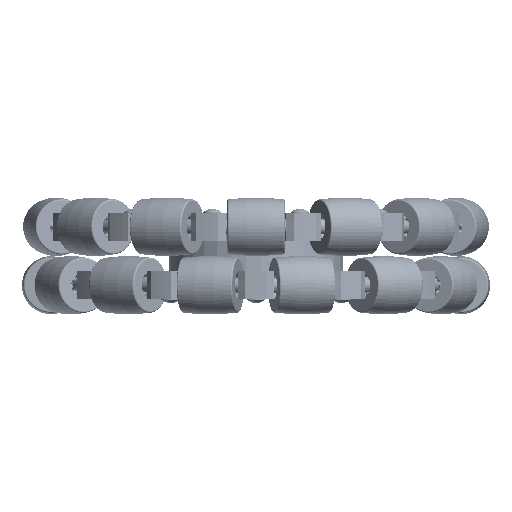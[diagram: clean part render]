
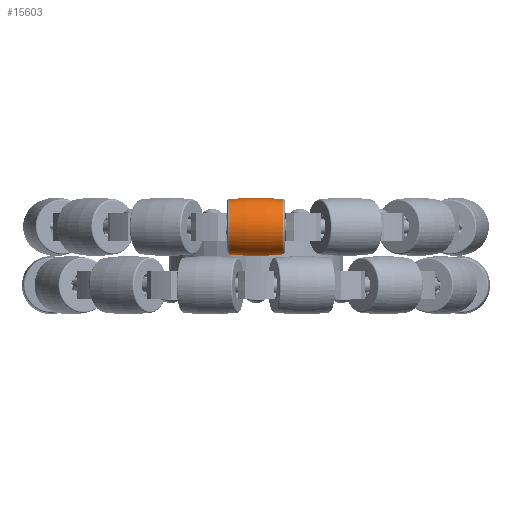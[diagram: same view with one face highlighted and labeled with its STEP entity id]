
A CAD part, front view. The second image highlights one B-rep face of the part: STEP entity #15603.
In plain terms, the highlighted toroidal (fillet/blend) face has major radius 66.7 mm and minor radius 76.2 mm.
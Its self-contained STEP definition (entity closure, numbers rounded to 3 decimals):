
#538 = DIRECTION ( 'NONE',  ( 0., 0., -1. ) ) ;
#956 = EDGE_CURVE ( 'NONE', #3558, #6561, #13864, .T. ) ;
#1027 = DIRECTION ( 'NONE',  ( -1., 0., 0. ) ) ;
#1182 = AXIS2_PLACEMENT_3D ( 'NONE', #7686, #17348, #9071 ) ;
#1633 = CIRCLE ( 'NONE', #5151, 76.2 ) ;
#3430 = EDGE_LOOP ( 'NONE', ( #10274, #8078, #6128, #12113 ) ) ;
#3558 = VERTEX_POINT ( 'NONE', #12205 ) ;
#4352 = VERTEX_POINT ( 'NONE', #9973 ) ;
#4538 = CARTESIAN_POINT ( 'NONE',  ( -8.858, 66.7, 0. ) ) ;
#5151 = AXIS2_PLACEMENT_3D ( 'NONE', #17105, #8833, #538 ) ;
#5513 = DIRECTION ( 'NONE',  ( -1., 0., 0. ) ) ;
#5622 = CARTESIAN_POINT ( 'NONE',  ( 8.858, 66.7, -8.983 ) ) ;
#5905 = DIRECTION ( 'NONE',  ( 0., 0., -1. ) ) ;
#6128 = ORIENTED_EDGE ( 'NONE', *, *, #14619, .T. ) ;
#6561 = VERTEX_POINT ( 'NONE', #5622 ) ;
#6666 = CARTESIAN_POINT ( 'NONE',  ( 0., 66.7, 0. ) ) ;
#6819 = FACE_OUTER_BOUND ( 'NONE', #3430, .T. ) ;
#7686 = CARTESIAN_POINT ( 'NONE',  ( 0., 66.7, 66.7 ) ) ;
#8078 = ORIENTED_EDGE ( 'NONE', *, *, #10196, .T. ) ;
#8833 = DIRECTION ( 'NONE',  ( 0., -1., 0. ) ) ;
#8836 = CARTESIAN_POINT ( 'NONE',  ( -8.858, 66.7, -8.983 ) ) ;
#9071 = DIRECTION ( 'NONE',  ( 0., 0., 1. ) ) ;
#9973 = CARTESIAN_POINT ( 'NONE',  ( -8.858, 66.7, 8.983 ) ) ;
#10108 = VERTEX_POINT ( 'NONE', #8836 ) ;
#10196 = EDGE_CURVE ( 'NONE', #6561, #10108, #16142, .T. ) ;
#10274 = ORIENTED_EDGE ( 'NONE', *, *, #956, .T. ) ;
#10711 = AXIS2_PLACEMENT_3D ( 'NONE', #6666, #1027, #16326 ) ;
#10926 = EDGE_CURVE ( 'NONE', #3558, #4352, #1633, .T. ) ;
#12113 = ORIENTED_EDGE ( 'NONE', *, *, #10926, .F. ) ;
#12205 = CARTESIAN_POINT ( 'NONE',  ( 8.858, 66.7, 8.983 ) ) ;
#13285 = TOROIDAL_SURFACE ( 'NONE', #10711, -66.7, 76.2 ) ;
#13764 = CARTESIAN_POINT ( 'NONE',  ( 8.858, 66.7, 0. ) ) ;
#13864 = CIRCLE ( 'NONE', #14595, 8.983 ) ;
#13934 = CIRCLE ( 'NONE', #14831, 8.983 ) ;
#14163 = DIRECTION ( 'NONE',  ( 1., 0., 0. ) ) ;
#14595 = AXIS2_PLACEMENT_3D ( 'NONE', #13764, #5513, #15163 ) ;
#14619 = EDGE_CURVE ( 'NONE', #10108, #4352, #13934, .T. ) ;
#14831 = AXIS2_PLACEMENT_3D ( 'NONE', #4538, #14163, #5905 ) ;
#15163 = DIRECTION ( 'NONE',  ( 0., 0., 1. ) ) ;
#15603 = ADVANCED_FACE ( 'NONE', ( #6819 ), #13285, .T. ) ;
#16142 = CIRCLE ( 'NONE', #1182, 76.2 ) ;
#16326 = DIRECTION ( 'NONE',  ( 0., 0., 1. ) ) ;
#17105 = CARTESIAN_POINT ( 'NONE',  ( 0., 66.7, -66.7 ) ) ;
#17348 = DIRECTION ( 'NONE',  ( 0., 1., 0. ) ) ;
